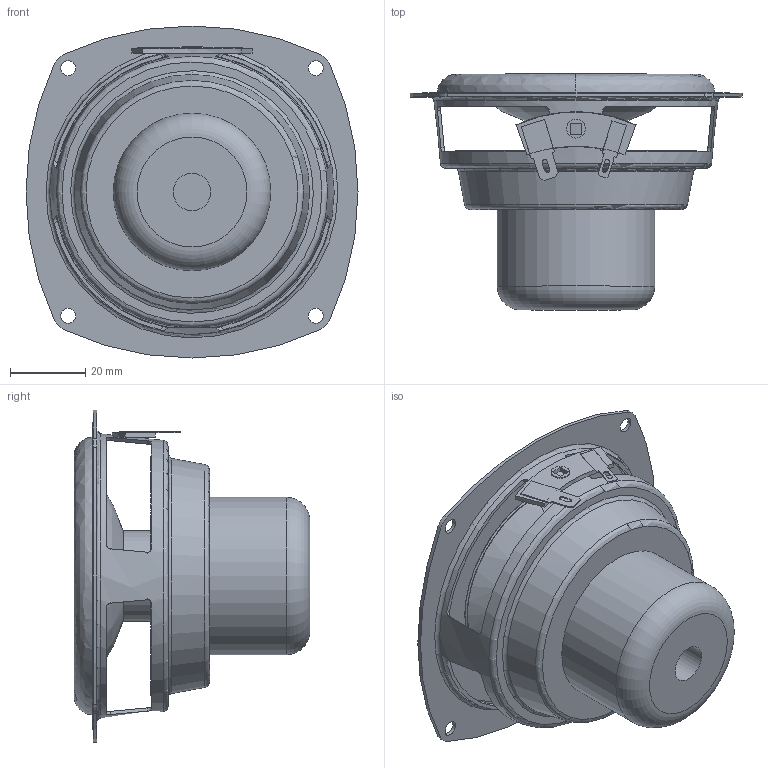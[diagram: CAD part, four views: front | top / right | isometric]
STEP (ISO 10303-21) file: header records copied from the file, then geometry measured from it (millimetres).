
FILE_DESCRIPTION(/* description */ (''),/* implementation_level */ '2;1');
FILE_NAME(/* name */ 'ND91-8 and -4.step',/* time_stamp */ '2026-02-26T12:00:11-05:00',/* author */ (''),/* organization */ (''),/* preprocessor_version */ 'ST-DEVELOPER v20.1',/* originating_system */ 'Autodesk Translation Framework v14.24.0.0',/* authorisation */ '');
FILE_SCHEMA (('AUTOMOTIVE_DESIGN { 1 0 10303 214 3 1 1 }'));
Length unit declared in the file: millimetre
Products named in the file (2): RMW032111K02_ASM; DUANZI
Assembly tree (1 placements, depth 2):
  RMW032111K02_ASM
    DUANZI
Bounding box: 88.5 x 62.85 x 88.5 mm (x, y, z)
Volume: 53481 mm3; surface area: 47413.6 mm2
Topology: 2 solids, 3 shells, 156 faces, 400 edges, 263 vertices
Faces by surface type: plane 74, cylinder 41, bspline 22, cone 10, torus 9
Full cylindrical faces by diameter (mm): 4 x4, 5 x1, 10 x1, 24 x1, 24.2 x1, 42 x1, 53 x1, 82 x1
Entity records: 9050 total; most frequent: CARTESIAN_POINT 5305, ORIENTED_EDGE 792, DIRECTION 723, EDGE_CURVE 396, AXIS2_PLACEMENT_3D 280, VERTEX_POINT 263, EDGE_LOOP 195, LINE 163
